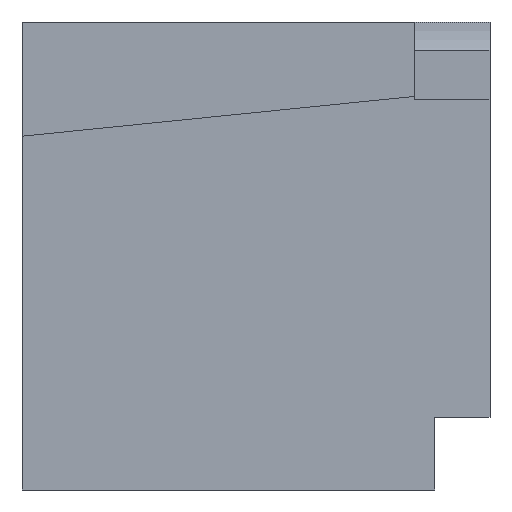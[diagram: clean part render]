
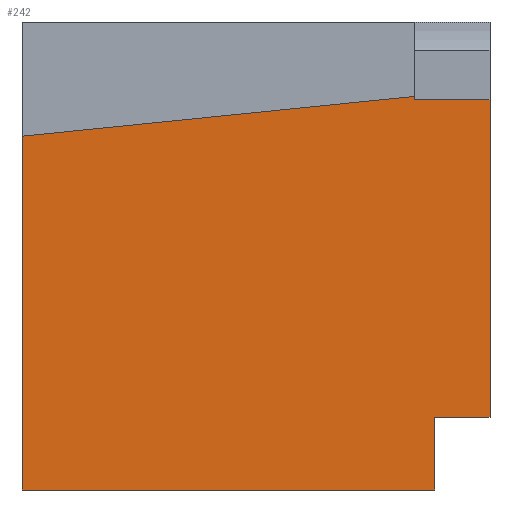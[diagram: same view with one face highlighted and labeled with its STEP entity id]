
A CAD part, left-side view. The second image highlights one B-rep face of the part: STEP entity #242.
In plain terms, the highlighted planar face has unit normal (-1, 0, 0).
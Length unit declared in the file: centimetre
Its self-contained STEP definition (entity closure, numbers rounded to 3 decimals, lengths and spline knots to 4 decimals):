
#39 = EDGE_CURVE ( 'NONE', #500, #864, #137, .T. ) ;
#49 = VERTEX_POINT ( 'NONE', #989 ) ;
#50 = LINE ( 'NONE', #793, #76 ) ;
#53 = CARTESIAN_POINT ( 'NONE',  ( 0., 0., 1000. ) ) ;
#76 = VECTOR ( 'NONE', #227, 100. ) ;
#89 = CARTESIAN_POINT ( 'NONE',  ( 0., 117.5987, 155.7674 ) ) ;
#90 = EDGE_CURVE ( 'NONE', #181, #49, #149, .T. ) ;
#96 = DIRECTION ( 'NONE',  ( 0., 0., -1. ) ) ;
#114 = CARTESIAN_POINT ( 'NONE',  ( 0., 1000., 1000. ) ) ;
#129 = EDGE_CURVE ( 'NONE', #49, #864, #801, .T. ) ;
#137 = LINE ( 'NONE', #714, #1056 ) ;
#139 = CARTESIAN_POINT ( 'NONE',  ( 0., 0., 155.7674 ) ) ;
#149 = LINE ( 'NONE', #1171, #1033 ) ;
#181 = VERTEX_POINT ( 'NONE', #814 ) ;
#227 = DIRECTION ( 'NONE',  ( 0., -0.995, 0.101 ) ) ;
#242 = ADVANCED_FACE ( 'NONE', ( #1198 ), #835, .F. ) ;
#250 = VECTOR ( 'NONE', #96, 100. ) ;
#282 = ORIENTED_EDGE ( 'NONE', *, *, #999, .T. ) ;
#375 = VERTEX_POINT ( 'NONE', #856 ) ;
#409 = ORIENTED_EDGE ( 'NONE', *, *, #843, .T. ) ;
#413 = VECTOR ( 'NONE', #635, 100. ) ;
#433 = CARTESIAN_POINT ( 'NONE',  ( 0., 1000., 0. ) ) ;
#445 = ORIENTED_EDGE ( 'NONE', *, *, #39, .T. ) ;
#454 = ORIENTED_EDGE ( 'NONE', *, *, #129, .F. ) ;
#500 = VERTEX_POINT ( 'NONE', #782 ) ;
#532 = VECTOR ( 'NONE', #661, 100. ) ;
#544 = CARTESIAN_POINT ( 'NONE',  ( 0., 117.5987, 0. ) ) ;
#563 = LINE ( 'NONE', #89, #532 ) ;
#564 = DIRECTION ( 'NONE',  ( 0., 0., -1. ) ) ;
#591 = VERTEX_POINT ( 'NONE', #544 ) ;
#607 = EDGE_CURVE ( 'NONE', #756, #181, #1192, .T. ) ;
#635 = DIRECTION ( 'NONE',  ( 0., -1., 0. ) ) ;
#650 = CARTESIAN_POINT ( 'NONE',  ( 0., 1000., 1000. ) ) ;
#661 = DIRECTION ( 'NONE',  ( 0., 0., -1. ) ) ;
#698 = DIRECTION ( 'NONE',  ( 0., -1., 0. ) ) ;
#714 = CARTESIAN_POINT ( 'NONE',  ( 0., 117.5987, 155.7674 ) ) ;
#727 = CARTESIAN_POINT ( 'NONE',  ( 0., 1000., 0. ) ) ;
#747 = EDGE_LOOP ( 'NONE', ( #1152, #445, #454, #1067, #954, #1066, #409, #282 ) ) ;
#756 = VERTEX_POINT ( 'NONE', #1154 ) ;
#771 = VECTOR ( 'NONE', #894, 100. ) ;
#782 = CARTESIAN_POINT ( 'NONE',  ( 0., 117.5987, 155.7674 ) ) ;
#793 = CARTESIAN_POINT ( 'NONE',  ( 0., 1000., 756.0379 ) ) ;
#794 = EDGE_CURVE ( 'NONE', #500, #591, #563, .T. ) ;
#801 = LINE ( 'NONE', #53, #771 ) ;
#813 = DIRECTION ( 'NONE',  ( 0., 0., -1. ) ) ;
#814 = CARTESIAN_POINT ( 'NONE',  ( 0., 160.3629, 834.2115 ) ) ;
#828 = DIRECTION ( 'NONE',  ( 1., 0., 0. ) ) ;
#835 = PLANE ( 'NONE',  #850 ) ;
#843 = EDGE_CURVE ( 'NONE', #375, #952, #963, .T. ) ;
#850 = AXIS2_PLACEMENT_3D ( 'NONE', #650, #828, #564 ) ;
#856 = CARTESIAN_POINT ( 'NONE',  ( 0., 1000., 756.0379 ) ) ;
#864 = VERTEX_POINT ( 'NONE', #139 ) ;
#891 = EDGE_CURVE ( 'NONE', #375, #756, #50, .T. ) ;
#894 = DIRECTION ( 'NONE',  ( 0., 0., -1. ) ) ;
#922 = CARTESIAN_POINT ( 'NONE',  ( 0., 160.3629, 834.2115 ) ) ;
#952 = VERTEX_POINT ( 'NONE', #433 ) ;
#954 = ORIENTED_EDGE ( 'NONE', *, *, #607, .F. ) ;
#963 = LINE ( 'NONE', #114, #250 ) ;
#989 = CARTESIAN_POINT ( 'NONE',  ( 0., 0., 834.2115 ) ) ;
#999 = EDGE_CURVE ( 'NONE', #952, #591, #1102, .T. ) ;
#1033 = VECTOR ( 'NONE', #1086, 100. ) ;
#1056 = VECTOR ( 'NONE', #698, 100. ) ;
#1066 = ORIENTED_EDGE ( 'NONE', *, *, #891, .F. ) ;
#1067 = ORIENTED_EDGE ( 'NONE', *, *, #90, .F. ) ;
#1086 = DIRECTION ( 'NONE',  ( 0., -1., 0. ) ) ;
#1102 = LINE ( 'NONE', #727, #413 ) ;
#1108 = VECTOR ( 'NONE', #813, 100. ) ;
#1152 = ORIENTED_EDGE ( 'NONE', *, *, #794, .F. ) ;
#1154 = CARTESIAN_POINT ( 'NONE',  ( 0., 160.3629, 841.0242 ) ) ;
#1171 = CARTESIAN_POINT ( 'NONE',  ( 0., 0., 834.2115 ) ) ;
#1192 = LINE ( 'NONE', #922, #1108 ) ;
#1198 = FACE_OUTER_BOUND ( 'NONE', #747, .T. ) ;
